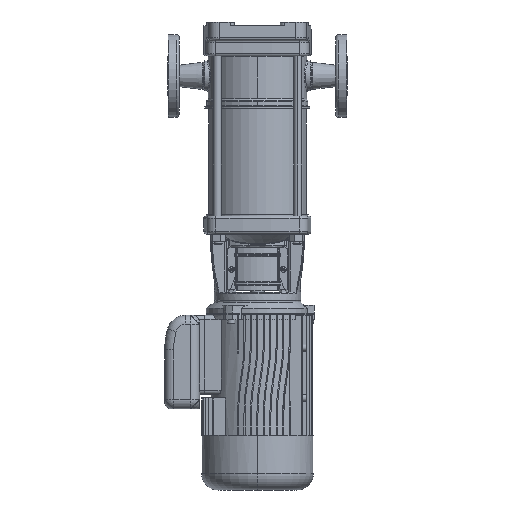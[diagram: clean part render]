
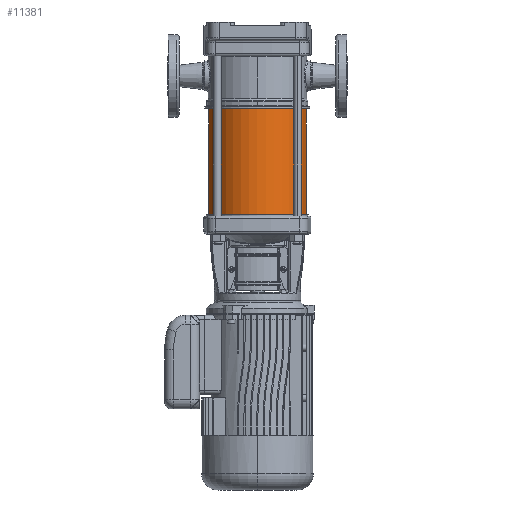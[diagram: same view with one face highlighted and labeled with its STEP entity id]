
A CAD part, front view. The second image highlights one B-rep face of the part: STEP entity #11381.
In plain terms, the highlighted cylindrical face has radius 68 mm (diameter 136 mm), a partial arc.
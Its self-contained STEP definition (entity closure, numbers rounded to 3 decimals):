
#4725=CARTESIAN_POINT('',(0.,0.,-34.667));
#4726=DIRECTION('',(0.,0.,1.));
#4727=DIRECTION('',(1.,0.,0.));
#4728=AXIS2_PLACEMENT_3D('',#4725,#4726,#4727);
#4763=CARTESIAN_POINT('',(0.,0.,-34.667));
#4764=DIRECTION('',(0.,0.,1.));
#4765=DIRECTION('',(0.,1.,0.));
#4766=AXIS2_PLACEMENT_3D('',#4763,#4764,#4765);
#4779=DIRECTION('',(0.,0.,1.));
#4780=VECTOR('',#4779,158.333);
#4781=CARTESIAN_POINT('',(-68.,0.,-193.));
#4782=LINE('',#4781,#4780);
#4832=CARTESIAN_POINT('',(0.,0.,-193.));
#4833=DIRECTION('',(0.,0.,1.));
#4834=DIRECTION('',(1.,0.,0.));
#4835=AXIS2_PLACEMENT_3D('',#4832,#4833,#4834);
#4840=DIRECTION('',(0.,0.,1.));
#4841=VECTOR('',#4840,158.333);
#4842=CARTESIAN_POINT('',(68.,0.,-193.));
#4843=LINE('',#4842,#4841);
#5131=CARTESIAN_POINT('',(68.,0.,-193.));
#5132=CARTESIAN_POINT('',(-68.,0.,-193.));
#5133=VERTEX_POINT('',#5131);
#5134=VERTEX_POINT('',#5132);
#5135=CARTESIAN_POINT('',(-68.,0.,-34.667));
#5136=VERTEX_POINT('',#5135);
#5441=CARTESIAN_POINT('',(0.,68.,-34.667));
#5442=VERTEX_POINT('',#5441);
#5445=CARTESIAN_POINT('',(68.,0.,-34.667));
#5446=VERTEX_POINT('',#5445);
#11369=CARTESIAN_POINT('',(0.,0.,-195.));
#11370=DIRECTION('',(0.,0.,1.));
#11371=DIRECTION('',(1.,0.,0.));
#11372=AXIS2_PLACEMENT_3D('',#11369,#11370,#11371);
#11373=CYLINDRICAL_SURFACE('',#11372,68.);
#11374=ORIENTED_EDGE('',*,*,#11325,.F.);
#11375=ORIENTED_EDGE('',*,*,#11297,.T.);
#11376=ORIENTED_EDGE('',*,*,#11261,.T.);
#11377=ORIENTED_EDGE('',*,*,#11281,.T.);
#11378=ORIENTED_EDGE('',*,*,#11293,.F.);
#11379=EDGE_LOOP('',(#11374,#11375,#11376,#11377,#11378));
#11380=FACE_OUTER_BOUND('',#11379,.F.);
#11381=ADVANCED_FACE('',(#11380),#11373,.T.);
#4729=CIRCLE('',#4728,68.);
#4767=CIRCLE('',#4766,68.);
#4836=CIRCLE('',#4835,68.);
#11261=EDGE_CURVE('',#5446,#5442,#4729,.T.);
#11281=EDGE_CURVE('',#5442,#5136,#4767,.T.);
#11293=EDGE_CURVE('',#5134,#5136,#4782,.T.);
#11297=EDGE_CURVE('',#5133,#5446,#4843,.T.);
#11325=EDGE_CURVE('',#5133,#5134,#4836,.T.);
